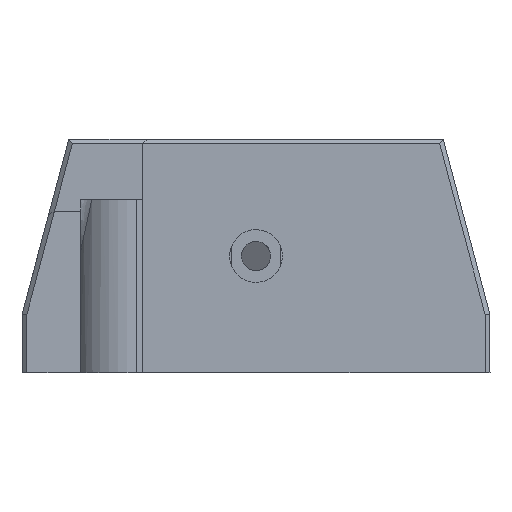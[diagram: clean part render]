
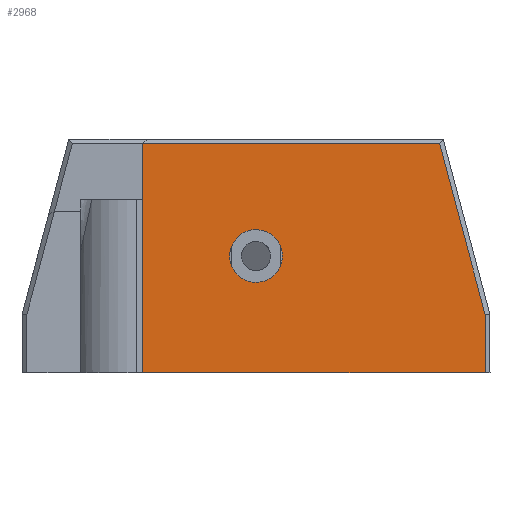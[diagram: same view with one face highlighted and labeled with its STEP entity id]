
A CAD part, front view. The second image highlights one B-rep face of the part: STEP entity #2968.
In plain terms, the highlighted planar face has unit normal (0, -1, 0).
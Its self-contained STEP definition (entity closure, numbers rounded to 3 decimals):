
#91=FACE_BOUND('',#383,.T.);
#219=FACE_OUTER_BOUND('',#382,.T.);
#382=EDGE_LOOP('',(#2038,#2039,#2040,#2041,#2042));
#383=EDGE_LOOP('',(#2043));
#545=B_SPLINE_CURVE_WITH_KNOTS('',3,(#4305,#4306,#4307,#4308,#4309,#4310,
#4311,#4312,#4313,#4314,#4315,#4316,#4317,#4318,#4319,#4320,#4321,#4322,
#4323,#4324,#4325,#4326,#4327,#4328,#4329,#4330,#4331,#4332,#4333,#4334,
#4335,#4336,#4337,#4338,#4339,#4340,#4341,#4342,#4343,#4344,#4345,#4346,
#4347,#4348,#4349,#4350,#4351,#4352,#4353,#4354,#4355,#4356,#4357,#4358,
#4359,#4360,#4361,#4362,#4363,#4364,#4365,#4366,#4367,#4368),
 .UNSPECIFIED.,.T.,.F.,(4,3,3,3,3,3,3,3,3,3,3,3,3,3,3,3,3,3,3,3,3,4),(0.,
0.047,0.094,0.13,0.165,
0.183,0.2,0.236,0.271,
0.306,0.377,0.424,0.465,
0.486,0.506,0.548,0.579,
0.589,0.63,0.671,0.713,
0.754),.UNSPECIFIED.);
#619=LINE('',#4209,#912);
#652=LINE('',#4280,#945);
#660=LINE('',#4300,#953);
#661=LINE('',#4302,#954);
#662=LINE('',#4303,#955);
#912=VECTOR('',#3390,10.);
#945=VECTOR('',#3453,10.);
#953=VECTOR('',#3471,10.);
#954=VECTOR('',#3472,10.);
#955=VECTOR('',#3473,10.);
#1206=VERTEX_POINT('',#4206);
#1207=VERTEX_POINT('',#4208);
#1230=VERTEX_POINT('',#4279);
#1237=VERTEX_POINT('',#4299);
#1238=VERTEX_POINT('',#4301);
#1239=VERTEX_POINT('',#4304);
#1497=EDGE_CURVE('',#1206,#1207,#619,.T.);
#1533=EDGE_CURVE('',#1230,#1207,#652,.T.);
#1543=EDGE_CURVE('',#1237,#1206,#660,.T.);
#1544=EDGE_CURVE('',#1238,#1237,#661,.T.);
#1545=EDGE_CURVE('',#1230,#1238,#662,.T.);
#1546=EDGE_CURVE('',#1239,#1239,#545,.T.);
#2038=ORIENTED_EDGE('',*,*,#1533,.T.);
#2039=ORIENTED_EDGE('',*,*,#1497,.F.);
#2040=ORIENTED_EDGE('',*,*,#1543,.F.);
#2041=ORIENTED_EDGE('',*,*,#1544,.F.);
#2042=ORIENTED_EDGE('',*,*,#1545,.F.);
#2043=ORIENTED_EDGE('',*,*,#1546,.T.);
#2864=PLANE('',#3137);
#2968=ADVANCED_FACE('',(#219,#91),#2864,.T.);
#3137=AXIS2_PLACEMENT_3D('',#4298,#3469,#3470);
#3390=DIRECTION('',(-1.,0.,0.));
#3453=DIRECTION('',(0.,0.,-1.));
#3469=DIRECTION('center_axis',(0.,-1.,0.));
#3470=DIRECTION('ref_axis',(1.,0.,0.));
#3471=DIRECTION('',(0.,0.,-1.));
#3472=DIRECTION('',(0.258,0.,-0.966));
#3473=DIRECTION('',(1.,0.,0.));
#4206=CARTESIAN_POINT('',(-55.35,-23.81,23.478));
#4208=CARTESIAN_POINT('',(-84.65,-23.81,23.478));
#4209=CARTESIAN_POINT('',(-69.827,-23.81,23.478));
#4279=CARTESIAN_POINT('',(-84.65,-23.81,43.078));
#4280=CARTESIAN_POINT('',(-84.65,-23.81,30.895));
#4298=CARTESIAN_POINT('Origin',(-69.95,-23.81,23.478));
#4299=CARTESIAN_POINT('',(-55.35,-23.81,28.426));
#4300=CARTESIAN_POINT('',(-55.35,-23.81,23.478));
#4301=CARTESIAN_POINT('',(-59.257,-23.81,43.078));
#4302=CARTESIAN_POINT('',(-56.212,-23.81,31.658));
#4303=CARTESIAN_POINT('',(-72.45,-23.81,43.078));
#4304=CARTESIAN_POINT('',(-77.2,-23.81,33.478));
#4305=CARTESIAN_POINT('Ctrl Pts',(-77.2,-23.81,33.478));
#4306=CARTESIAN_POINT('Ctrl Pts',(-77.2,-23.81,33.779));
#4307=CARTESIAN_POINT('Ctrl Pts',(-77.142,-23.81,34.074));
#4308=CARTESIAN_POINT('Ctrl Pts',(-77.018,-23.81,34.364));
#4309=CARTESIAN_POINT('Ctrl Pts',(-76.895,-23.81,34.653));
#4310=CARTESIAN_POINT('Ctrl Pts',(-76.723,-23.81,34.894));
#4311=CARTESIAN_POINT('Ctrl Pts',(-76.514,-23.81,35.095));
#4312=CARTESIAN_POINT('Ctrl Pts',(-76.36,-23.81,35.245));
#4313=CARTESIAN_POINT('Ctrl Pts',(-76.185,-23.81,35.372));
#4314=CARTESIAN_POINT('Ctrl Pts',(-75.987,-23.81,35.475));
#4315=CARTESIAN_POINT('Ctrl Pts',(-75.79,-23.81,35.577));
#4316=CARTESIAN_POINT('Ctrl Pts',(-75.583,-23.81,35.648));
#4317=CARTESIAN_POINT('Ctrl Pts',(-75.37,-23.81,35.689));
#4318=CARTESIAN_POINT('Ctrl Pts',(-75.264,-23.81,35.709));
#4319=CARTESIAN_POINT('Ctrl Pts',(-75.159,-23.81,35.721));
#4320=CARTESIAN_POINT('Ctrl Pts',(-75.055,-23.81,35.726));
#4321=CARTESIAN_POINT('Ctrl Pts',(-74.952,-23.81,35.731));
#4322=CARTESIAN_POINT('Ctrl Pts',(-74.847,-23.81,35.728));
#4323=CARTESIAN_POINT('Ctrl Pts',(-74.744,-23.81,35.719));
#4324=CARTESIAN_POINT('Ctrl Pts',(-74.531,-23.81,35.699));
#4325=CARTESIAN_POINT('Ctrl Pts',(-74.321,-23.81,35.65));
#4326=CARTESIAN_POINT('Ctrl Pts',(-74.114,-23.81,35.567));
#4327=CARTESIAN_POINT('Ctrl Pts',(-73.909,-23.81,35.485));
#4328=CARTESIAN_POINT('Ctrl Pts',(-73.719,-23.81,35.374));
#4329=CARTESIAN_POINT('Ctrl Pts',(-73.548,-23.81,35.238));
#4330=CARTESIAN_POINT('Ctrl Pts',(-73.38,-23.81,35.104));
#4331=CARTESIAN_POINT('Ctrl Pts',(-73.228,-23.81,34.943));
#4332=CARTESIAN_POINT('Ctrl Pts',(-73.102,-23.81,34.762));
#4333=CARTESIAN_POINT('Ctrl Pts',(-72.831,-23.81,34.371));
#4334=CARTESIAN_POINT('Ctrl Pts',(-72.7,-23.81,33.946));
#4335=CARTESIAN_POINT('Ctrl Pts',(-72.7,-23.81,33.478));
#4336=CARTESIAN_POINT('Ctrl Pts',(-72.7,-23.81,33.177));
#4337=CARTESIAN_POINT('Ctrl Pts',(-72.758,-23.81,32.882));
#4338=CARTESIAN_POINT('Ctrl Pts',(-72.882,-23.81,32.592));
#4339=CARTESIAN_POINT('Ctrl Pts',(-72.989,-23.81,32.342));
#4340=CARTESIAN_POINT('Ctrl Pts',(-73.135,-23.81,32.124));
#4341=CARTESIAN_POINT('Ctrl Pts',(-73.311,-23.81,31.937));
#4342=CARTESIAN_POINT('Ctrl Pts',(-73.396,-23.81,31.847));
#4343=CARTESIAN_POINT('Ctrl Pts',(-73.49,-23.81,31.762));
#4344=CARTESIAN_POINT('Ctrl Pts',(-73.589,-23.81,31.687));
#4345=CARTESIAN_POINT('Ctrl Pts',(-73.69,-23.81,31.61));
#4346=CARTESIAN_POINT('Ctrl Pts',(-73.797,-23.81,31.542));
#4347=CARTESIAN_POINT('Ctrl Pts',(-73.912,-23.81,31.482));
#4348=CARTESIAN_POINT('Ctrl Pts',(-74.145,-23.81,31.361));
#4349=CARTESIAN_POINT('Ctrl Pts',(-74.386,-23.81,31.285));
#4350=CARTESIAN_POINT('Ctrl Pts',(-74.636,-23.81,31.25));
#4351=CARTESIAN_POINT('Ctrl Pts',(-74.816,-23.81,31.225));
#4352=CARTESIAN_POINT('Ctrl Pts',(-75.003,-23.81,31.221));
#4353=CARTESIAN_POINT('Ctrl Pts',(-75.183,-23.81,31.24));
#4354=CARTESIAN_POINT('Ctrl Pts',(-75.245,-23.81,31.247));
#4355=CARTESIAN_POINT('Ctrl Pts',(-75.306,-23.81,31.256));
#4356=CARTESIAN_POINT('Ctrl Pts',(-75.368,-23.81,31.267));
#4357=CARTESIAN_POINT('Ctrl Pts',(-75.621,-23.81,31.315));
#4358=CARTESIAN_POINT('Ctrl Pts',(-75.858,-23.81,31.403));
#4359=CARTESIAN_POINT('Ctrl Pts',(-76.085,-23.81,31.535));
#4360=CARTESIAN_POINT('Ctrl Pts',(-76.301,-23.81,31.662));
#4361=CARTESIAN_POINT('Ctrl Pts',(-76.5,-23.81,31.828));
#4362=CARTESIAN_POINT('Ctrl Pts',(-76.663,-23.81,32.02));
#4363=CARTESIAN_POINT('Ctrl Pts',(-76.832,-23.81,32.217));
#4364=CARTESIAN_POINT('Ctrl Pts',(-76.967,-23.81,32.444));
#4365=CARTESIAN_POINT('Ctrl Pts',(-77.061,-23.81,32.699));
#4366=CARTESIAN_POINT('Ctrl Pts',(-77.156,-23.81,32.957));
#4367=CARTESIAN_POINT('Ctrl Pts',(-77.2,-23.81,33.215));
#4368=CARTESIAN_POINT('Ctrl Pts',(-77.2,-23.81,33.478));
